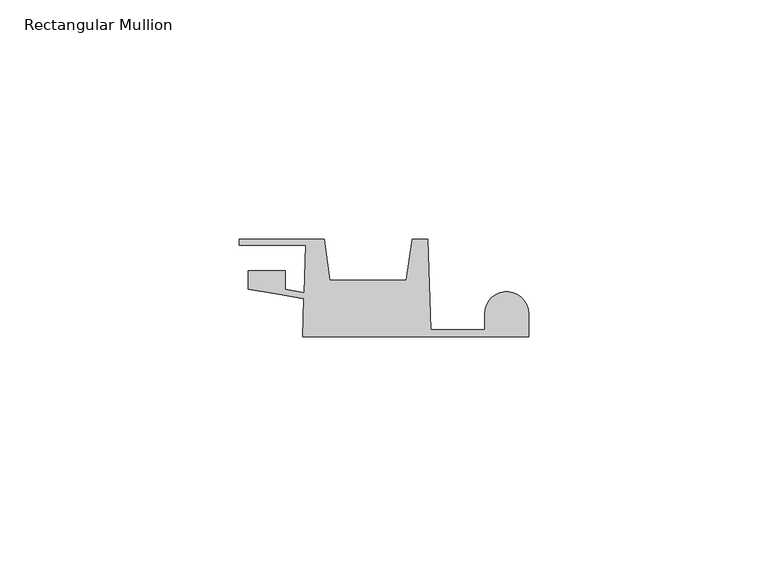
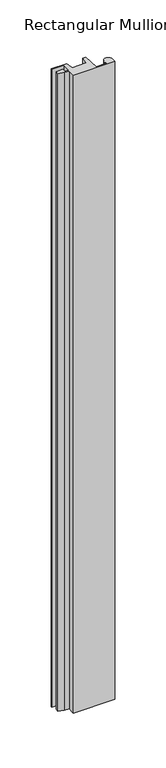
"""IFC4 building model written with IfcOpenShell, lengths in millimetres: member geometry, Rectangular Mullion : QuickPanel-Reveal_Multi-Angle-Inside-Corner-Trim-Left."""

import ifcopenshell
import ifcopenshell.guid

model = None  # the IFC model being written
_history = None  # IfcOwnerHistory: only IFC2X3 demands one
_inside = {}  # id of a spatial element -> (the spatial element, [elements in it])
_under = {}  # id of a project, library or spatial element -> (it, [spatial elements below it])
_declared = {}  # id of a project -> (the project, [libraries it declares])
_typed = {}  # id of a type object -> (the type object, [elements of that type])
_made_of = {}  # id of a material, layer set ... -> (it, [elements and type objects made of it])


def new_model(schema):
    """Start an empty IFC model of exactly this schema.

    Asked for "IFC4X3", IfcOpenShell would pick the latest addendum, in which some entities
    have other attributes; the version numbers below select the first issue.
    IFC2X3 requires an IfcOwnerHistory on every rooted entity: one is made here for all.
    """
    global model, _history
    if schema == "IFC4X3":
        model = ifcopenshell.file(schema_version=(4, 3, 0, 0))
    else:
        model = ifcopenshell.file(schema=schema)
    _inside.clear()
    _under.clear()
    _declared.clear()
    _typed.clear()
    _made_of.clear()
    _history = None
    if model.schema == "IFC2X3":
        org = make("IfcOrganization", Name="unknown")
        user = make(
            "IfcPersonAndOrganization",
            ThePerson=make("IfcPerson", FamilyName="unknown"),
            TheOrganization=org,
        )
        app = make(
            "IfcApplication",
            ApplicationDeveloper=org,
            Version="unknown",
            ApplicationFullName="unknown",
            ApplicationIdentifier="unknown",
        )
        _history = make(
            "IfcOwnerHistory",
            OwningUser=user,
            OwningApplication=app,
            ChangeAction="ADDED",
            CreationDate=0,
        )
    return model


def make(cls, **values):
    """One entity of the class cls with the attributes given. An attribute that is None is left unset."""
    return model.create_entity(
        cls, **{name: value for name, value in values.items() if value is not None}
    )


def rooted(cls, **values):
    """An entity with a GlobalId (a new one), such as an element, a storey or a relation."""
    return make(cls, GlobalId=ifcopenshell.guid.new(), OwnerHistory=_history, **values)


def si_unit(unit_type, name, prefix=None):
    """IfcSIUnit, for example si_unit("LENGTHUNIT", "METRE", prefix="MILLI")."""
    return make("IfcSIUnit", UnitType=unit_type, Prefix=prefix, Name=name)


def assignment(units):
    """IfcUnitAssignment: the units of a project."""
    return None if units is None else make("IfcUnitAssignment", Units=units)


def point(xyz):
    """IfcCartesianPoint."""
    return None if xyz is None else make("IfcCartesianPoint", Coordinates=xyz)


def direction(xyz):
    """IfcDirection."""
    return None if xyz is None else make("IfcDirection", DirectionRatios=xyz)


def frame(location, z_axis=None, x_axis=None):
    """IfcAxis2Placement3D, a coordinate frame: its origin and axes. An axis left out is left unset."""
    return make(
        "IfcAxis2Placement3D",
        Location=point(location),
        Axis=direction(z_axis),
        RefDirection=direction(x_axis),
    )


def frame_2d(location, x_axis=None):
    """IfcAxis2Placement2D, a coordinate frame in the plane: its origin and x axis."""
    return make(
        "IfcAxis2Placement2D", Location=point(location), RefDirection=direction(x_axis)
    )


def origin():
    """The frame at (0, 0, 0) with its axes left unset."""
    return frame((0.0, 0.0, 0.0))


def place(relative_to, where):
    """IfcLocalPlacement: puts the frame where relative to a parent placement (None: the world)."""
    return make(
        "IfcLocalPlacement", PlacementRelTo=relative_to, RelativePlacement=where
    )


def context(
    kind, dimensions, precision=None, world=None, true_north=None, identifier=None
):
    """IfcGeometricRepresentationContext, for example the 3D "Model" context."""
    return make(
        "IfcGeometricRepresentationContext",
        ContextIdentifier=identifier,
        ContextType=kind,
        CoordinateSpaceDimension=dimensions,
        Precision=precision,
        WorldCoordinateSystem=world,
        TrueNorth=true_north,
    )


def project(units=None, contexts=None):
    """IfcProject with its units and contexts."""
    return rooted(
        "IfcProject",
        Name="project",
        RepresentationContexts=contexts,
        UnitsInContext=assignment(units),
    )


def spatial(cls, under=None, at=None, **own):
    """A site, building, storey or space (cls), placed at a placement, below another one or the project."""
    s = rooted(cls, ObjectPlacement=at, **own)
    if under is not None:
        _under.setdefault(under.id(), (under, []))[1].append(s)
    return s


def polyline(points):
    """IfcPolyline through the points."""
    return make("IfcPolyline", Points=[point(p) for p in points])


def circle_curve(where, radius):
    """IfcCircle in the frame where."""
    return make("IfcCircle", Position=where, Radius=radius)


def trimmed(basis, trim1, trim2, sense, master):
    """IfcTrimmedCurve: the piece of a basis curve between two trims."""
    return make(
        "IfcTrimmedCurve",
        BasisCurve=basis,
        Trim1=trim1,
        Trim2=trim2,
        SenseAgreement=sense,
        MasterRepresentation=master,
    )


def segment(curve, same_sense, transition):
    """IfcCompositeCurveSegment."""
    return make(
        "IfcCompositeCurveSegment",
        Transition=transition,
        SameSense=same_sense,
        ParentCurve=curve,
    )


def composite_curve(segments, self_intersect=None):
    """IfcCompositeCurve: segments joined end to end."""
    return make("IfcCompositeCurve", Segments=segments, SelfIntersect=self_intersect)


def outline(outer, holes=None, kind="AREA"):
    """IfcArbitraryClosedProfileDef: a profile drawn as a closed curve; with holes, ...WithVoids."""
    if holes is None:
        return make("IfcArbitraryClosedProfileDef", ProfileType=kind, OuterCurve=outer)
    return make(
        "IfcArbitraryProfileDefWithVoids",
        ProfileType=kind,
        OuterCurve=outer,
        InnerCurves=holes,
    )


def extrude(swept, where, along, depth):
    """IfcExtrudedAreaSolid: the profile swept, set in the frame where, extruded along a direction by depth."""
    return make(
        "IfcExtrudedAreaSolid",
        SweptArea=swept,
        Position=where,
        ExtrudedDirection=direction(along),
        Depth=depth,
    )


def shape(context_of_items, identifier, shape_type, items):
    """IfcShapeRepresentation: the items that make up one representation, for example the "Body"."""
    return make(
        "IfcShapeRepresentation",
        ContextOfItems=context_of_items,
        RepresentationIdentifier=identifier,
        RepresentationType=shape_type,
        Items=items,
    )


def source(mapping_origin, context_of_items, identifier, shape_type, items):
    """IfcRepresentationMap: a shape defined once, which mapped items show again and again."""
    return make(
        "IfcRepresentationMap",
        MappingOrigin=mapping_origin,
        MappedRepresentation=shape(context_of_items, identifier, shape_type, items),
    )


def transform(
    local_origin,
    x_axis=None,
    y_axis=None,
    z_axis=None,
    scale=None,
    scale2=None,
    scale3=None,
    uniform=True,
):
    """IfcCartesianTransformationOperator3D, or its non-uniform kind. x_axis, y_axis, z_axis: its Axis1, 2, 3."""
    if uniform:
        return make(
            "IfcCartesianTransformationOperator3D",
            Axis1=direction(x_axis),
            Axis2=direction(y_axis),
            LocalOrigin=point(local_origin),
            Scale=scale,
            Axis3=direction(z_axis),
        )
    return make(
        "IfcCartesianTransformationOperator3DnonUniform",
        Axis1=direction(x_axis),
        Axis2=direction(y_axis),
        LocalOrigin=point(local_origin),
        Scale=scale,
        Axis3=direction(z_axis),
        Scale2=scale2,
        Scale3=scale3,
    )


def mapped(mapping_source, mapping_target):
    """IfcMappedItem: shows the shape of a source again, moved by a transform."""
    return make(
        "IfcMappedItem", MappingSource=mapping_source, MappingTarget=mapping_target
    )


def made_of(thing, what):
    """Note that an element or type object is made of a material, layer set ...; save() writes the relation."""
    if what is not None:
        _made_of.setdefault(what.id(), (what, []))[1].append(thing)
    return thing


def element(
    cls,
    number,
    at=None,
    inside=None,
    cuts=None,
    type_object=None,
    material=None,
    context=None,
    identifier="Body",
    shape_type=None,
    held_by="IfcProductDefinitionShape",
    body=None,
    shapes=None,
    **own,
):
    """One element of the class cls, such as IfcWall. Its Tag is "e" and its number.

    at: its placement. inside: the storey or other place that contains it. cuts: it is an
    opening in that element (IfcRelVoidsElement). A single representation is given by context,
    identifier, shape_type and body (its items); several are given by shapes. held_by: the class
    of the entity that holds the representations. save() writes the other relations.
    """
    e = rooted(cls, Tag="e%d" % number, ObjectPlacement=at, **own)
    if body is not None:
        shapes = [shape(context, identifier, shape_type, body)]
    if shapes is not None:
        e.Representation = make(held_by, Representations=shapes)
    if inside is not None:
        _inside.setdefault(inside.id(), (inside, []))[1].append(e)
    if cuts is not None:
        rooted(
            "IfcRelVoidsElement", RelatingBuildingElement=cuts, RelatedOpeningElement=e
        )
    if type_object is not None:
        _typed.setdefault(type_object.id(), (type_object, []))[1].append(e)
    return made_of(e, material)


def aggregate(whole, parts):
    """IfcRelAggregates: a whole, such as a stair, and the parts it consists of."""
    return rooted("IfcRelAggregates", RelatingObject=whole, RelatedObjects=parts)


def save(model, path):
    """Write the relations noted so far, then the file.

    IfcRelAggregates (storeys below a building ...), IfcRelContainedInSpatialStructure (elements
    in a storey), IfcRelDefinesByType, IfcRelAssociatesMaterial and IfcRelDeclares: one each for
    every whole, place, type object, material and project.
    """
    for whole, parts in _under.values():
        aggregate(whole, parts)
    for where, things in _inside.values():
        rooted(
            "IfcRelContainedInSpatialStructure",
            RelatedElements=things,
            RelatingStructure=where,
        )
    for kind, things in _typed.values():
        rooted("IfcRelDefinesByType", RelatedObjects=things, RelatingType=kind)
    for what, things in _made_of.values():
        rooted("IfcRelAssociatesMaterial", RelatedObjects=things, RelatingMaterial=what)
    for by, libraries in _declared.values():
        rooted("IfcRelDeclares", RelatingContext=by, RelatedDefinitions=libraries)
    model.write(path)


def rectangular_mullion_d275acce(model_context):
    return source(origin(), model_context, "Body", "SweptSolid", [
        extrude(outline(composite_curve([segment(polyline([(-47.1501229, -8.095605), (-46.8743766, -0.1992641), (-52.1246575, 0.7008023), (-58.5599901, 1.8040245), (-58.5599901, 5.6493034), (-50.815217, 5.6493034), (-50.815217, 1.7648465), (-46.8296481, 1.0815922), (-46.485721, 10.9303752), (-60.3420745, 10.9303752), (-60.3420745, 12.1803727), (-42.6931018, 12.1803727), (-41.5043841, 3.7222065), (-25.4912576, 3.7222065), (-24.3025399, 12.1803727), (-21.0443089, 12.1803727), (-20.3850086, -6.6995181), (-9.144, -6.6995181), (-9.144, -3.3003083)]), True, "CONTINUOUS"), segment(trimmed(circle_curve(frame_2d((-4.572, -3.3003083)), 4.572), [point((-9.144, -3.3003083))], [point((0.0, -3.3003083))], False, "CARTESIAN"), True, "CONTINUOUS"), segment(polyline([(0.0, -3.3003083), (0.0, -8.095605), (-47.1501229, -8.095605)]), True, "CONTINUOUS")], self_intersect=False)), frame((0.0, 0.0, -762.0), z_axis=(0.0, 0.0, 1.0), x_axis=(1.0, 0.0, 0.0)), (0.0, 0.0, 1.0), 762.0),
    ])


if __name__ == "__main__":
    model = new_model("IFC4")
    model_context = context("Model", 3, world=origin())
    ifc_project = project(units=[si_unit("LENGTHUNIT", "METRE", prefix="MILLI")], contexts=[model_context])
    site = spatial("IfcSite", under=ifc_project)
    building = spatial("IfcBuilding", under=site)
    placement = place(None, origin())
    rectangular_mullion_shape = rectangular_mullion_d275acce(model_context)
    element("IfcMember", 1, ObjectType="Rectangular Mullion : QuickPanel-Reveal_Multi-Angle-Inside-Corner-Trim-Left", at=placement, inside=building, context=model_context, shape_type="MappedRepresentation", body=[
        mapped(rectangular_mullion_shape, transform((0.0, 0.0, 0.0), x_axis=(1.0, 0.0, 0.0), y_axis=(0.0, 1.0, 0.0), z_axis=(0.0, 0.0, 1.0))),
    ])
    save(model, "model.ifc")
